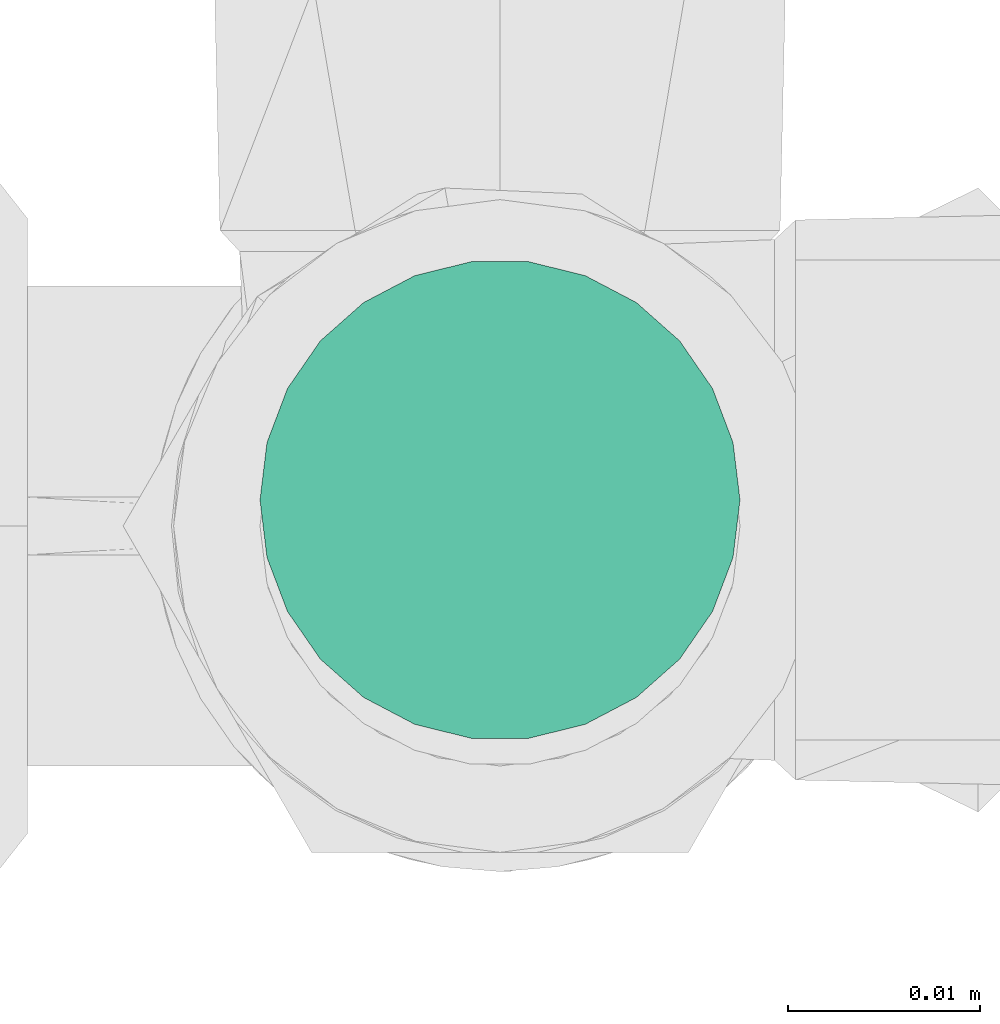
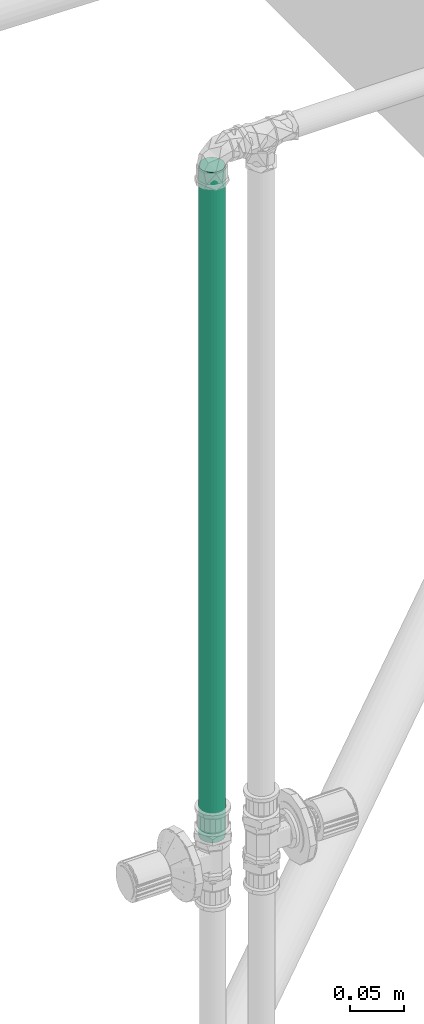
# One storey, part 192 of 589: 1 flow segment.
"""IFC2X3 building model written with IfcOpenShell, lengths in millimetres."""

from ifc_helpers import new_model, entity, si_unit, converted_unit, derived_unit, direction, frame, origin, origin_2d_with_axis, place, context, subcontext, project, spatial, circle, extrude, type_object, element, save


model = new_model("IFC2X3")

# Units and contexts
model_context = context("Model", 3, precision=0.01, world=origin(), true_north=direction((6.123031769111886e-17, 1.0)))
body_context = subcontext(model_context, "Body", "Model", "MODEL_VIEW")
ifc_project = project(units=[si_unit("LENGTHUNIT", "METRE", prefix="MILLI"), si_unit("AREAUNIT", "SQUARE_METRE"), si_unit("VOLUMEUNIT", "CUBIC_METRE"), converted_unit("PLANEANGLEUNIT", "DEGREE", entity("IfcRatioMeasure", 0.017453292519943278), si_unit("PLANEANGLEUNIT", "RADIAN"), dimensions=[0, 0, 0, 0, 0, 0, 0]), si_unit("MASSUNIT", "GRAM", prefix="KILO"), derived_unit("MASSDENSITYUNIT", [(si_unit("MASSUNIT", "GRAM", prefix="KILO"), 1), (si_unit("LENGTHUNIT", "METRE"), -3)]), derived_unit("IONCONCENTRATIONUNIT", [(si_unit("MASSUNIT", "GRAM", prefix="KILO"), 1), (si_unit("LENGTHUNIT", "METRE"), -3)]), derived_unit("MOMENTOFINERTIAUNIT", [(si_unit("LENGTHUNIT", "METRE"), 4)]), si_unit("TIMEUNIT", "SECOND"), si_unit("FREQUENCYUNIT", "HERTZ"), si_unit("THERMODYNAMICTEMPERATUREUNIT", "DEGREE_CELSIUS"), derived_unit("THERMALTRANSMITTANCEUNIT", [(si_unit("MASSUNIT", "GRAM", prefix="KILO"), 1), (si_unit("THERMODYNAMICTEMPERATUREUNIT", "KELVIN"), -1), (si_unit("TIMEUNIT", "SECOND"), -3)]), derived_unit("THERMALCONDUCTANCEUNIT", [(si_unit("MASSUNIT", "GRAM", prefix="KILO"), 1), (si_unit("THERMODYNAMICTEMPERATUREUNIT", "KELVIN"), -1), (si_unit("TIMEUNIT", "SECOND"), -3), (si_unit("LENGTHUNIT", "METRE"), 1)]), derived_unit("VOLUMETRICFLOWRATEUNIT", [(si_unit("LENGTHUNIT", "METRE"), 3), (si_unit("TIMEUNIT", "SECOND"), -1)]), derived_unit("MASSFLOWRATEUNIT", [(si_unit("MASSUNIT", "GRAM", prefix="KILO"), 1), (si_unit("TIMEUNIT", "SECOND"), -1)]), derived_unit("ROTATIONALFREQUENCYUNIT", [(si_unit("TIMEUNIT", "SECOND"), -1)]), si_unit("ELECTRICCURRENTUNIT", "AMPERE"), si_unit("ELECTRICVOLTAGEUNIT", "VOLT"), si_unit("POWERUNIT", "WATT"), si_unit("FORCEUNIT", "NEWTON", prefix="KILO"), si_unit("ILLUMINANCEUNIT", "LUX"), si_unit("LUMINOUSFLUXUNIT", "LUMEN"), si_unit("LUMINOUSINTENSITYUNIT", "CANDELA"), derived_unit("USERDEFINED", [(si_unit("MASSUNIT", "GRAM", prefix="KILO"), -1), (si_unit("LENGTHUNIT", "METRE"), -2), (si_unit("TIMEUNIT", "SECOND"), 3), (si_unit("LUMINOUSFLUXUNIT", "LUMEN"), 1)]), derived_unit("USERDEFINED", [(si_unit("MASSUNIT", "GRAM", prefix="KILO"), 1), (si_unit("TIMEUNIT", "SECOND"), -3), (si_unit("LENGTHUNIT", "METRE"), 3), (si_unit("ELECTRICCURRENTUNIT", "AMPERE"), -2)]), derived_unit("SOUNDPOWERUNIT", [(si_unit("MASSUNIT", "GRAM", prefix="KILO"), 1), (si_unit("TIMEUNIT", "SECOND"), -3), (si_unit("LENGTHUNIT", "METRE"), 2)]), derived_unit("SOUNDPRESSUREUNIT", [(si_unit("MASSUNIT", "GRAM", prefix="KILO"), 1), (si_unit("LENGTHUNIT", "METRE"), -1), (si_unit("TIMEUNIT", "SECOND"), -2)]), derived_unit("LINEARVELOCITYUNIT", [(si_unit("LENGTHUNIT", "METRE"), 1), (si_unit("TIMEUNIT", "SECOND"), -1)]), si_unit("PRESSUREUNIT", "PASCAL"), derived_unit("USERDEFINED", [(si_unit("MASSUNIT", "GRAM", prefix="KILO"), 1), (si_unit("LENGTHUNIT", "METRE"), -2), (si_unit("TIMEUNIT", "SECOND"), -2)]), derived_unit("LINEARFORCEUNIT", [(si_unit("MASSUNIT", "GRAM", prefix="KILO"), 1), (si_unit("TIMEUNIT", "SECOND"), -2)]), derived_unit("PLANARFORCEUNIT", [(si_unit("MASSUNIT", "GRAM", prefix="KILO"), 1), (si_unit("LENGTHUNIT", "METRE"), -1), (si_unit("TIMEUNIT", "SECOND"), -2)]), derived_unit("SPECIFICHEATCAPACITYUNIT", [(si_unit("THERMODYNAMICTEMPERATUREUNIT", "KELVIN"), -1), (si_unit("LENGTHUNIT", "METRE"), 2), (si_unit("TIMEUNIT", "SECOND"), -2)]), derived_unit("HEATINGVALUEUNIT", [(si_unit("LENGTHUNIT", "METRE"), 2), (si_unit("TIMEUNIT", "SECOND"), -2)]), derived_unit("VAPORPERMEABILITYUNIT", [(si_unit("LENGTHUNIT", "METRE"), -1), (si_unit("TIMEUNIT", "SECOND"), 1)]), derived_unit("DYNAMICVISCOSITYUNIT", [(si_unit("MASSUNIT", "GRAM", prefix="KILO"), 1), (si_unit("TIMEUNIT", "SECOND"), -1), (si_unit("LENGTHUNIT", "METRE"), -1)]), derived_unit("THERMALEXPANSIONCOEFFICIENTUNIT", [(si_unit("THERMODYNAMICTEMPERATUREUNIT", "KELVIN"), -1)]), derived_unit("MODULUSOFELASTICITYUNIT", [(si_unit("MASSUNIT", "GRAM", prefix="KILO"), 1), (si_unit("LENGTHUNIT", "METRE"), -1), (si_unit("TIMEUNIT", "SECOND"), -2)]), derived_unit("ISOTHERMALMOISTURECAPACITYUNIT", [(si_unit("LENGTHUNIT", "METRE"), 3), (si_unit("MASSUNIT", "GRAM", prefix="KILO"), -1)]), derived_unit("MOISTUREDIFFUSIVITYUNIT", [(si_unit("TIMEUNIT", "SECOND"), -1), (si_unit("LENGTHUNIT", "METRE"), 2)])], contexts=[model_context])

# Site, building, storey
site_placement = place(None, origin())
site = spatial("IfcSite", under=ifc_project, at=site_placement, Name="Default", CompositionType="ELEMENT")
building_placement = place(site_placement, origin())
building = spatial("IfcBuilding", under=site, at=building_placement, CompositionType="ELEMENT")
storey_placement = place(building_placement, frame((0.0, 0.0, 100.0)))
storey = spatial("IfcBuildingStorey", under=building, at=storey_placement, Name="TÉRREO", CompositionType="ELEMENT", Elevation=100.0)

# Flow segment
pipe_segment_type = type_object("IfcPipeSegmentType", Name="Tipos de tubos:PVC Marrom Soldável", PredefinedType="NOTDEFINED")
flow_segment_placement = place(storey_placement, origin())
element("IfcFlowSegment", 1, at=flow_segment_placement, inside=storey, type_object=pipe_segment_type, Name="Tipos de tubos:PVC Marrom Soldável", ObjectType="Tipos de tubos:PVC Marrom Soldável", context=body_context, shape_type="SweptSolid", body=[
    extrude(circle(Radius=12.5, at=origin_2d_with_axis()), frame((7301.1693911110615, -1891.7407768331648, 2220.0), z_axis=(0.0, 0.0, 1.0), x_axis=(-1.0, 0.0, 0.0)), (0.0, 0.0, 1.0), 764.6000000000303),
])

save(model, "model.ifc")
